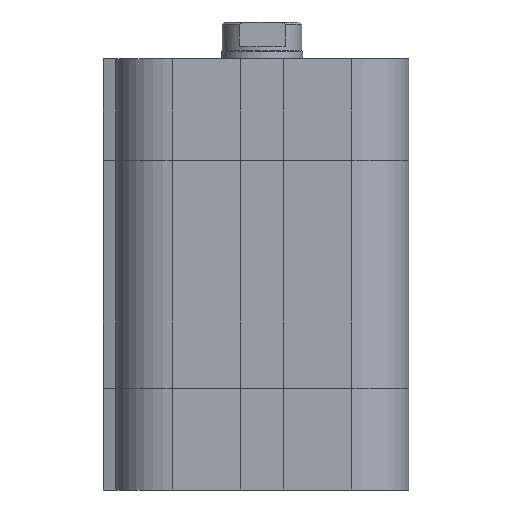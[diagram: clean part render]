
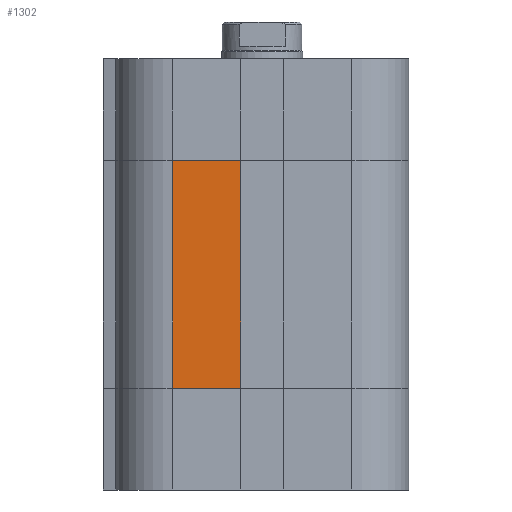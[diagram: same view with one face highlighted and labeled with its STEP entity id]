
A CAD part, left-side view. The second image highlights one B-rep face of the part: STEP entity #1302.
In plain terms, the highlighted planar face has unit normal (-1, 0, 0).
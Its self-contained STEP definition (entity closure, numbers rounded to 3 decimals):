
#1213=CARTESIAN_POINT('',(-18.,11.0,12.5));
#1214=VERTEX_POINT('',#1213);
#1222=CARTESIAN_POINT('',(-18.,11.0,40.5));
#1223=VERTEX_POINT('',#1222);
#1224=CARTESIAN_POINT('',(-18.,11.0,12.5));
#1225=DIRECTION('',(0.0,0.0,1.0));
#1226=VECTOR('',#1225,28.);
#1227=LINE('',#1224,#1226);
#1228=EDGE_CURVE('',#1214,#1223,#1227,.T.);
#1272=CARTESIAN_POINT('',(-18.0,2.6,0.0));
#1273=DIRECTION('',(-1.0,0.0,0.0));
#1274=DIRECTION('',(0.0,0.0,1.0));
#1275=AXIS2_PLACEMENT_3D('',#1272,#1273,#1274);
#1276=PLANE('',#1275);
#1277=CARTESIAN_POINT('',(-18.0,2.6,12.5));
#1278=VERTEX_POINT('',#1277);
#1279=CARTESIAN_POINT('',(-18.,11.0,12.5));
#1280=DIRECTION('',(0.0,-1.0,0.0));
#1281=VECTOR('',#1280,8.4);
#1282=LINE('',#1279,#1281);
#1283=EDGE_CURVE('',#1214,#1278,#1282,.T.);
#1284=ORIENTED_EDGE('',*,*,#1283,.T.);
#1285=CARTESIAN_POINT('',(-18.0,2.6,40.5));
#1286=VERTEX_POINT('',#1285);
#1287=CARTESIAN_POINT('',(-18.0,2.6,12.5));
#1288=DIRECTION('',(0.0,0.0,1.0));
#1289=VECTOR('',#1288,28.);
#1290=LINE('',#1287,#1289);
#1291=EDGE_CURVE('',#1278,#1286,#1290,.T.);
#1292=ORIENTED_EDGE('',*,*,#1291,.T.);
#1293=CARTESIAN_POINT('',(-18.,11.0,40.5));
#1294=DIRECTION('',(0.0,-1.0,0.0));
#1295=VECTOR('',#1294,8.4);
#1296=LINE('',#1293,#1295);
#1297=EDGE_CURVE('',#1223,#1286,#1296,.T.);
#1298=ORIENTED_EDGE('',*,*,#1297,.F.);
#1299=ORIENTED_EDGE('',*,*,#1228,.F.);
#1300=EDGE_LOOP('',(#1284,#1292,#1298,#1299));
#1301=FACE_OUTER_BOUND('',#1300,.T.);
#1302=ADVANCED_FACE('',(#1301),#1276,.T.);
